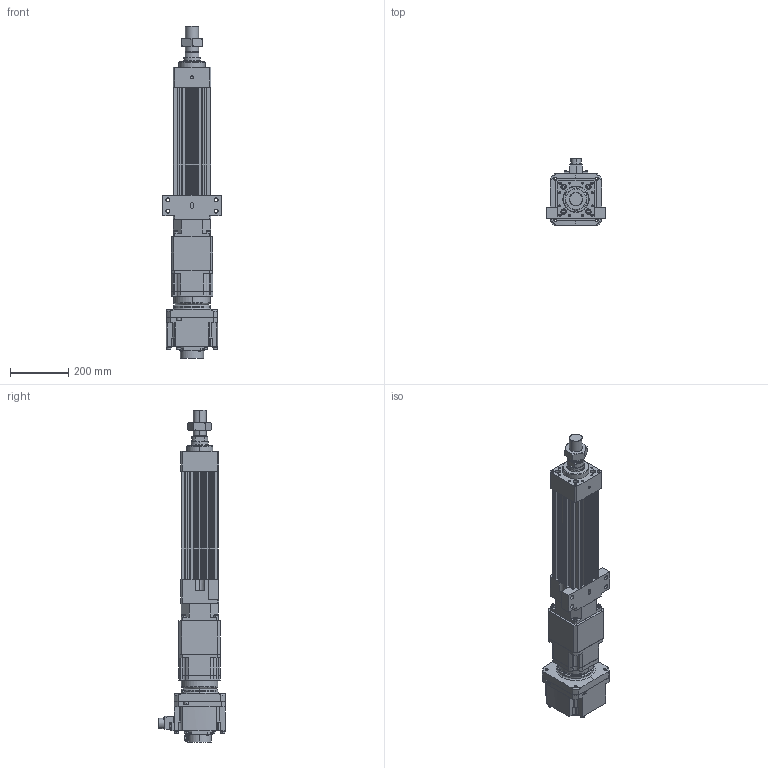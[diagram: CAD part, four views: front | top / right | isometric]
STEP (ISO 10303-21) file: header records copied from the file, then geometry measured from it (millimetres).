
FILE_DESCRIPTION (( 'STEP AP203' ), '1' );
FILE_NAME ('HES130FS(HS)-S150-W020G00-M-FFC.STEP', '2023-01-31T03:01:41', ( 'tms' ), ( '' ), 'SwSTEP 2.0', 'SolidWorks 2013', '' );
FILE_SCHEMA (( 'CONFIG_CONTROL_DESIGN' ));
Length unit declared in the file: millimetre
Products named in the file (9): AB1421; M45X1.5P; P0403500801; HES130 ROD M ST150; P1301500001; AB142-003[HG-SR352]; HES130FS(HS)-S150-W020G00-M-FFC; HES130-S150-G142-FFC; HG-SR202
Assembly tree (8 placements, depth 3):
  HES130FS(HS)-S150-W020G00-M-FFC
    HES130-S150-G142-FFC
    HES130 ROD M ST150
    M45X1.5P
    AB142-003[HG-SR352]
      AB1421
      P1301500001
      P0403500801
    HG-SR202
Bounding box: 200 x 228.85 x 1137.5 mm (x, y, z)
Volume: 10291490.8 mm3; surface area: 1275815.3 mm2
Topology: 4 solids, 22 shells, 1546 faces, 3982 edges, 2565 vertices
Faces by surface type: cylinder 694, plane 586, cone 184, bspline 76, torus 6
Entity records: 55838 total; most frequent: CARTESIAN_POINT 16862, DIRECTION 8160, ORIENTED_EDGE 7822, EDGE_CURVE 3933, AXIS2_PLACEMENT_3D 3080, VERTEX_POINT 2565, VECTOR 2000, LINE 2000
